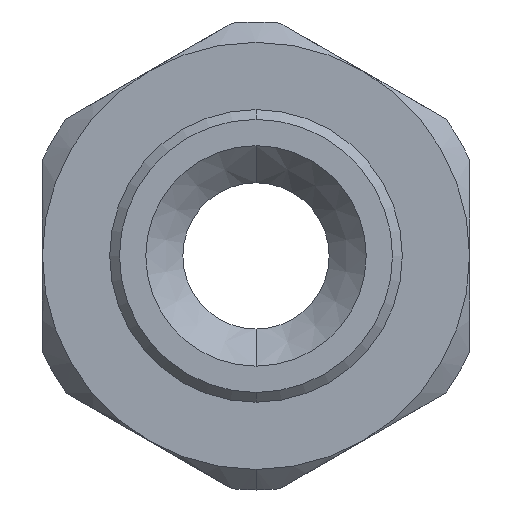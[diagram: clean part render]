
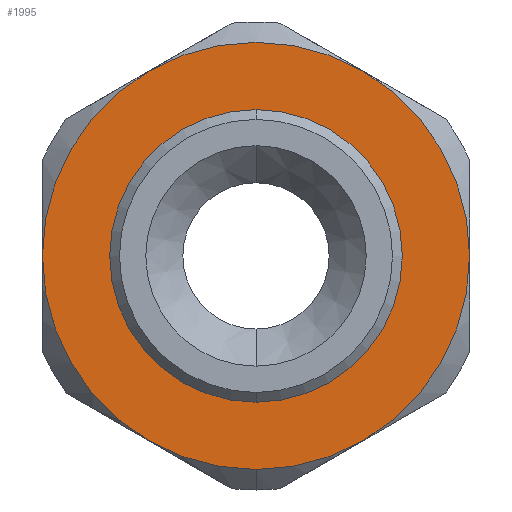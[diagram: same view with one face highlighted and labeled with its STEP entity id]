
A CAD part, front view. The second image highlights one B-rep face of the part: STEP entity #1995.
In plain terms, the highlighted planar face has unit normal (0, -1, 0).
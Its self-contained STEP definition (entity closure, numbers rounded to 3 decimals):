
#51 = VERTEX_POINT ( 'NONE', #468 ) ;
#81 = VERTEX_POINT ( 'NONE', #455 ) ;
#100 = VERTEX_POINT ( 'NONE', #436 ) ;
#121 = VERTEX_POINT ( 'NONE', #402 ) ;
#203 = ORIENTED_EDGE ( 'NONE', *, *, #1938, .F. ) ;
#204 = ORIENTED_EDGE ( 'NONE', *, *, #2041, .F. ) ;
#205 = ORIENTED_EDGE ( 'NONE', *, *, #1934, .T. ) ;
#206 = ORIENTED_EDGE ( 'NONE', *, *, #1929, .T. ) ;
#207 = ORIENTED_EDGE ( 'NONE', *, *, #1933, .T. ) ;
#208 = ORIENTED_EDGE ( 'NONE', *, *, #1926, .T. ) ;
#209 = ORIENTED_EDGE ( 'NONE', *, *, #1925, .T. ) ;
#210 = ORIENTED_EDGE ( 'NONE', *, *, #2027, .T. ) ;
#211 = ORIENTED_EDGE ( 'NONE', *, *, #1927, .T. ) ;
#294 = VERTEX_POINT ( 'NONE', #396 ) ;
#314 = VERTEX_POINT ( 'NONE', #386 ) ;
#324 = CARTESIAN_POINT ( 'NONE',  ( 0., 1., -10.95 ) ) ;
#330 = CARTESIAN_POINT ( 'NONE',  ( 5.475, 1., -9.483 ) ) ;
#336 = VERTEX_POINT ( 'NONE', #362 ) ;
#346 = VERTEX_POINT ( 'NONE', #330 ) ;
#351 = VERTEX_POINT ( 'NONE', #324 ) ;
#362 = CARTESIAN_POINT ( 'NONE',  ( 0., 1., 7.5 ) ) ;
#386 = CARTESIAN_POINT ( 'NONE',  ( 10.95, 1., 0. ) ) ;
#396 = CARTESIAN_POINT ( 'NONE',  ( 0., 1., -7.5 ) ) ;
#402 = CARTESIAN_POINT ( 'NONE',  ( -10.95, 1., 0. ) ) ;
#436 = CARTESIAN_POINT ( 'NONE',  ( -5.475, 1., -9.483 ) ) ;
#455 = CARTESIAN_POINT ( 'NONE',  ( 5.475, 1., 9.483 ) ) ;
#468 = CARTESIAN_POINT ( 'NONE',  ( -5.475, 1., 9.483 ) ) ;
#530 = EDGE_LOOP ( 'NONE', ( #205, #207, #206, #208, #209, #210, #211 ) ) ;
#532 = EDGE_LOOP ( 'NONE', ( #203, #204 ) ) ;
#733 = CARTESIAN_POINT ( 'NONE',  ( 0., 1., 0. ) ) ;
#831 = DIRECTION ( 'NONE',  ( 0., 0., 1. ) ) ;
#832 = DIRECTION ( 'NONE',  ( 0., 1., 0. ) ) ;
#833 = CARTESIAN_POINT ( 'NONE',  ( -12., 1., 0. ) ) ;
#834 = PLANE ( 'NONE',  #1491 ) ;
#1005 = DIRECTION ( 'NONE',  ( 0., -1., 0. ) ) ;
#1006 = CARTESIAN_POINT ( 'NONE',  ( 0., 1., 0. ) ) ;
#1015 = DIRECTION ( 'NONE',  ( 0., 0., -1. ) ) ;
#1016 = DIRECTION ( 'NONE',  ( 0., -1., 0. ) ) ;
#1017 = CARTESIAN_POINT ( 'NONE',  ( 0., 1., 0. ) ) ;
#1018 = DIRECTION ( 'NONE',  ( 0., 0., -1. ) ) ;
#1019 = DIRECTION ( 'NONE',  ( 0., -1., 0. ) ) ;
#1020 = CARTESIAN_POINT ( 'NONE',  ( 0., 1., 0. ) ) ;
#1029 = DIRECTION ( 'NONE',  ( 0., 0., -1. ) ) ;
#1030 = DIRECTION ( 'NONE',  ( 0., -1., 0. ) ) ;
#1034 = DIRECTION ( 'NONE',  ( 0., 0., -1. ) ) ;
#1035 = DIRECTION ( 'NONE',  ( 0., -1., 0. ) ) ;
#1036 = CARTESIAN_POINT ( 'NONE',  ( 0., 1., 0. ) ) ;
#1039 = CARTESIAN_POINT ( 'NONE',  ( 0., 1., 0. ) ) ;
#1040 = DIRECTION ( 'NONE',  ( 0., 0., -1. ) ) ;
#1041 = DIRECTION ( 'NONE',  ( 0., -1., 0. ) ) ;
#1042 = CARTESIAN_POINT ( 'NONE',  ( 0., 1., 0. ) ) ;
#1043 = DIRECTION ( 'NONE',  ( 0., 0., -1. ) ) ;
#1045 = DIRECTION ( 'NONE',  ( 0., -1., 0. ) ) ;
#1049 = DIRECTION ( 'NONE',  ( 0., 0., -1. ) ) ;
#1055 = CARTESIAN_POINT ( 'NONE',  ( 0., 1., 0. ) ) ;
#1425 = AXIS2_PLACEMENT_3D ( 'NONE', #2397, #2393, #2392 ) ;
#1427 = AXIS2_PLACEMENT_3D ( 'NONE', #733, #2438, #2437 ) ;
#1491 = AXIS2_PLACEMENT_3D ( 'NONE', #833, #832, #831 ) ;
#1493 = FACE_OUTER_BOUND ( 'NONE', #530, .T. ) ;
#1501 = FACE_BOUND ( 'NONE', #532, .T. ) ;
#1591 = AXIS2_PLACEMENT_3D ( 'NONE', #1006, #1005, #1049 ) ;
#1603 = AXIS2_PLACEMENT_3D ( 'NONE', #1020, #1019, #1018 ) ;
#1605 = AXIS2_PLACEMENT_3D ( 'NONE', #1017, #1016, #1015 ) ;
#1606 = AXIS2_PLACEMENT_3D ( 'NONE', #1042, #1041, #1040 ) ;
#1609 = AXIS2_PLACEMENT_3D ( 'NONE', #1036, #1035, #1034 ) ;
#1610 = AXIS2_PLACEMENT_3D ( 'NONE', #1055, #1045, #1043 ) ;
#1622 = AXIS2_PLACEMENT_3D ( 'NONE', #1039, #1030, #1029 ) ;
#1925 = EDGE_CURVE ( 'NONE', #100, #351, #2181, .T. ) ;
#1926 = EDGE_CURVE ( 'NONE', #121, #100, #2180, .T. ) ;
#1927 = EDGE_CURVE ( 'NONE', #346, #314, #2179, .T. ) ;
#1929 = EDGE_CURVE ( 'NONE', #51, #121, #2178, .T. ) ;
#1933 = EDGE_CURVE ( 'NONE', #81, #51, #2175, .T. ) ;
#1934 = EDGE_CURVE ( 'NONE', #314, #81, #2174, .T. ) ;
#1938 = EDGE_CURVE ( 'NONE', #294, #336, #2170, .T. ) ;
#1995 = ADVANCED_FACE ( 'NONE', ( #1501, #1493 ), #834, .F. ) ;
#2027 = EDGE_CURVE ( 'NONE', #351, #346, #2141, .T. ) ;
#2041 = EDGE_CURVE ( 'NONE', #336, #294, #2134, .T. ) ;
#2134 = CIRCLE ( 'NONE', #1425, 7.5 ) ;
#2141 = CIRCLE ( 'NONE', #1427, 10.95 ) ;
#2170 = CIRCLE ( 'NONE', #1591, 7.5 ) ;
#2174 = CIRCLE ( 'NONE', #1605, 10.95 ) ;
#2175 = CIRCLE ( 'NONE', #1603, 10.95 ) ;
#2178 = CIRCLE ( 'NONE', #1622, 10.95 ) ;
#2179 = CIRCLE ( 'NONE', #1609, 10.95 ) ;
#2180 = CIRCLE ( 'NONE', #1606, 10.95 ) ;
#2181 = CIRCLE ( 'NONE', #1610, 10.95 ) ;
#2392 = DIRECTION ( 'NONE',  ( 0., 0., -1. ) ) ;
#2393 = DIRECTION ( 'NONE',  ( 0., -1., 0. ) ) ;
#2397 = CARTESIAN_POINT ( 'NONE',  ( 0., 1., 0. ) ) ;
#2437 = DIRECTION ( 'NONE',  ( 0., 0., -1. ) ) ;
#2438 = DIRECTION ( 'NONE',  ( 0., -1., 0. ) ) ;
